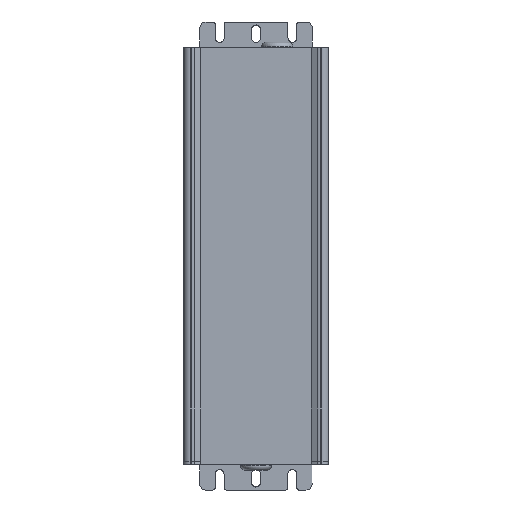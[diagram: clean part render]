
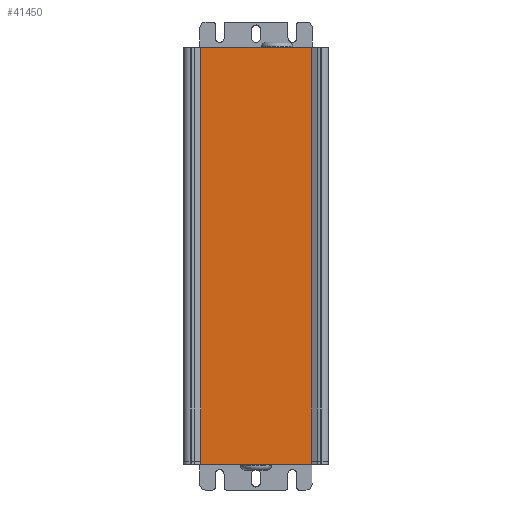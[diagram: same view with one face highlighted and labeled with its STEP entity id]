
A CAD part, left-side view. The second image highlights one B-rep face of the part: STEP entity #41450.
In plain terms, the highlighted planar face has unit normal (-1, 0, 0) as drawn and (0, 1, 0) by its records, which use the part's own axes.
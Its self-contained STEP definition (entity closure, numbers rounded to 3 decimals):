
#3790=CARTESIAN_POINT('',(2003.285,-2415.053,
23.4));
#3800=VERTEX_POINT('',#3790);
#3830=CARTESIAN_POINT('',(0.,-2415.053,23.4));
#3840=DIRECTION('',(1.,0.,0.));
#3850=VECTOR('',#3840,1.);
#3860=LINE('',#3830,#3850);
#3870=CARTESIAN_POINT('',(1951.285,-2415.053,
23.4));
#3880=VERTEX_POINT('',#3870);
#3890=EDGE_CURVE('',#3880,#3800,#3860,.T.);
#13120=CARTESIAN_POINT('',(1951.285,-2415.053,23.24
));
#13130=DIRECTION('',(0.,0.,1.));
#13140=VECTOR('',#13130,1.);
#13150=LINE('',#13120,#13140);
#13160=CARTESIAN_POINT('',(1951.285,-2415.053,25.));
#13170=VERTEX_POINT('',#13160);
#13180=EDGE_CURVE('',#3880,#13170,#13150,.T.);
#13780=CARTESIAN_POINT('',(2003.285,-2415.053,25.));
#13790=VERTEX_POINT('',#13780);
#13820=CARTESIAN_POINT('',(2003.285,-2415.053,23.24
));
#13830=DIRECTION('',(0.,0.,1.));
#13840=VECTOR('',#13830,1.);
#13850=LINE('',#13820,#13840);
#13860=EDGE_CURVE('',#3800,#13790,#13850,.T.);
#37350=CARTESIAN_POINT('',(1951.235,-2415.053,25.));
#37360=VERTEX_POINT('',#37350);
#37580=CARTESIAN_POINT('',(0.,-2415.053,25.));
#37590=DIRECTION('',(-1.,0.,0.));
#37600=VECTOR('',#37590,1.);
#37610=LINE('',#37580,#37600);
#37620=EDGE_CURVE('',#13170,#37360,#37610,.T.);
#37930=CARTESIAN_POINT('',(2003.235,-2415.053,25.));
#37940=VERTEX_POINT('',#37930);
#37970=CARTESIAN_POINT('',(0.,-2415.053,25.));
#37980=DIRECTION('',(-1.,0.,0.));
#37990=VECTOR('',#37980,1.);
#38000=LINE('',#37970,#37990);
#38010=EDGE_CURVE('',#13790,#37940,#38000,.T.);
#41110=CARTESIAN_POINT('',(1951.235,-2415.053,15.8));
#41120=DIRECTION('',(0.,1.,0.));
#41130=DIRECTION('',(1.,0.,0.));
#41140=AXIS2_PLACEMENT_3D('',#41110,#41120,#41130);
#41150=PLANE('',#41140);
#41160=ORIENTED_EDGE('',*,*,#13180,.T.);
#41170=ORIENTED_EDGE('',*,*,#3890,.F.);
#41180=ORIENTED_EDGE('',*,*,#13860,.F.);
#41190=ORIENTED_EDGE('',*,*,#38010,.F.);
#41200=CARTESIAN_POINT('',(2003.235,-2415.053,15.8));
#41210=DIRECTION('',(0.,0.,1.));
#41220=VECTOR('',#41210,1.);
#41230=LINE('',#41200,#41220);
#41240=CARTESIAN_POINT('',(2003.235,-2415.053,
219.4));
#41250=VERTEX_POINT('',#41240);
#41260=EDGE_CURVE('',#37940,#41250,#41230,.T.);
#41270=ORIENTED_EDGE('',*,*,#41260,.F.);
#41280=CARTESIAN_POINT('',(3954.519,-2415.053,
219.4));
#41290=DIRECTION('',(-1.,0.,0.));
#41300=VECTOR('',#41290,1.);
#41310=LINE('',#41280,#41300);
#41320=CARTESIAN_POINT('',(1951.235,-2415.053,
219.4));
#41330=VERTEX_POINT('',#41320);
#41340=EDGE_CURVE('',#41250,#41330,#41310,.T.);
#41350=ORIENTED_EDGE('',*,*,#41340,.F.);
#41360=CARTESIAN_POINT('',(1951.235,-2415.053,15.8));
#41370=DIRECTION('',(0.,0.,1.));
#41380=VECTOR('',#41370,1.);
#41390=LINE('',#41360,#41380);
#41400=EDGE_CURVE('',#37360,#41330,#41390,.T.);
#41410=ORIENTED_EDGE('',*,*,#41400,.T.);
#41420=ORIENTED_EDGE('',*,*,#37620,.T.);
#41430=EDGE_LOOP('',(#41420,#41410,#41350,#41270,#41190,#41180,#41170,
#41160));
#41440=FACE_OUTER_BOUND('',#41430,.T.);
#41450=ADVANCED_FACE('',(#41440),#41150,.T.);
